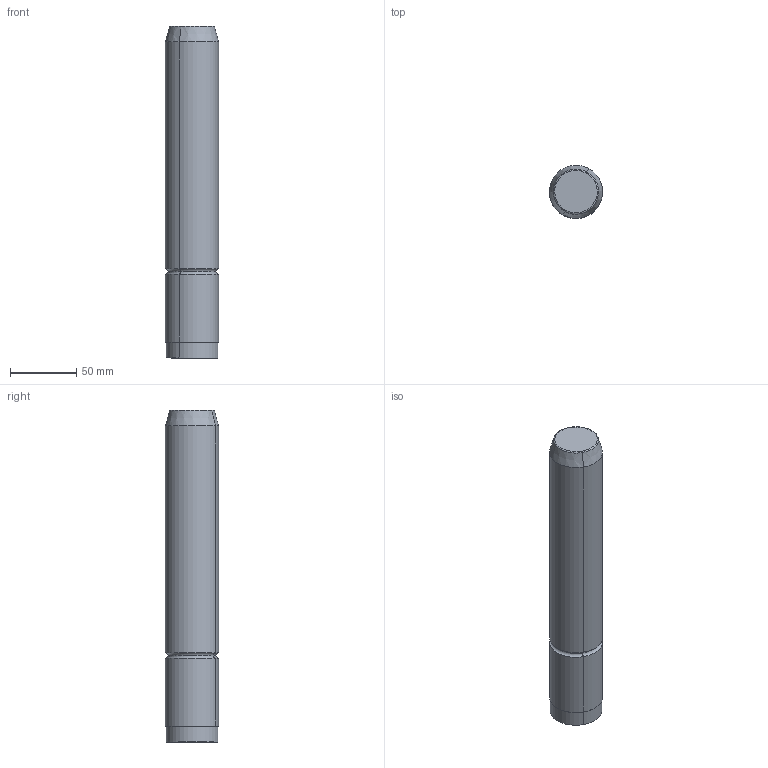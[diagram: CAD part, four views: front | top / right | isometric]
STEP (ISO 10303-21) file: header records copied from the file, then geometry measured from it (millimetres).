
FILE_DESCRIPTION(('CATIA V5 STEP Exchange'),'2;1');
FILE_NAME('C:\Users\Utente\Desktop\IO LAVORO\3D X SITO CF\X SITO\M104\M104-40x250.stp','2020-12-26T21:27:15+00:00',('none'),('none'),'CATIA Version 5 Release 20 GA (IN-10)','CATIA V5 STEP AP203','none');
FILE_SCHEMA(('CONFIG_CONTROL_DESIGN'));
Length unit declared in the file: millimetre
Products named in the file (1): M104-40x250
Bounding box: 39.99 x 39.99 x 250 mm (x, y, z)
Volume: 310276.8 mm3; surface area: 33669.4 mm2
Topology: 1 solids, 1 shells, 17 faces, 32 edges, 18 vertices
Faces by surface type: cylinder 6, torus 6, plane 3, cone 2
Entity records: 438 total; most frequent: CARTESIAN_POINT 66, ORIENTED_EDGE 64, DIRECTION 62, AXIS2_PLACEMENT_3D 40, EDGE_CURVE 32, CIRCLE 24, EDGE_LOOP 18, VERTEX_POINT 18
